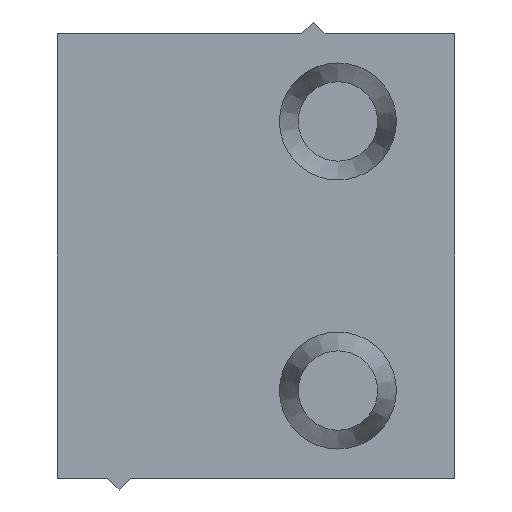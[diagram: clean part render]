
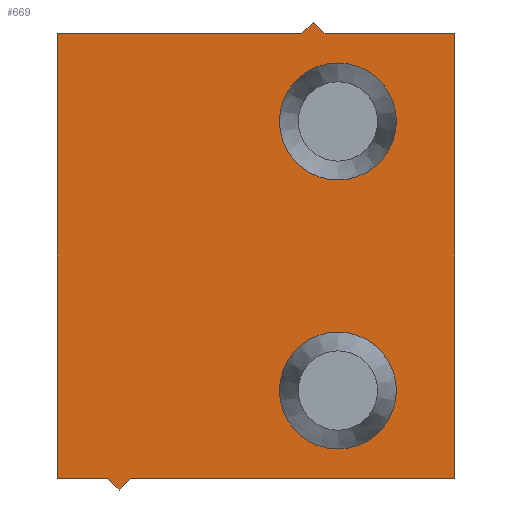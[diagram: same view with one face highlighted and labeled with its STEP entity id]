
A CAD part, left-side view. The second image highlights one B-rep face of the part: STEP entity #669.
In plain terms, the highlighted planar face has unit normal (-1, 0, 0).
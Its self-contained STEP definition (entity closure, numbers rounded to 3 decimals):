
#38=CIRCLE('',#733,2.5);
#39=CIRCLE('',#734,2.5);
#100=ORIENTED_EDGE('',*,*,#261,.T.);
#101=ORIENTED_EDGE('',*,*,#262,.F.);
#102=ORIENTED_EDGE('',*,*,#229,.T.);
#103=ORIENTED_EDGE('',*,*,#263,.F.);
#104=ORIENTED_EDGE('',*,*,#264,.F.);
#105=ORIENTED_EDGE('',*,*,#265,.T.);
#106=ORIENTED_EDGE('',*,*,#266,.F.);
#107=ORIENTED_EDGE('',*,*,#267,.F.);
#108=ORIENTED_EDGE('',*,*,#268,.F.);
#109=ORIENTED_EDGE('',*,*,#269,.F.);
#110=ORIENTED_EDGE('',*,*,#224,.F.);
#111=ORIENTED_EDGE('',*,*,#260,.T.);
#224=EDGE_CURVE('',#308,#309,#372,.T.);
#229=EDGE_CURVE('',#314,#312,#377,.T.);
#260=EDGE_CURVE('',#308,#314,#402,.T.);
#261=EDGE_CURVE('',#340,#340,#38,.T.);
#262=EDGE_CURVE('',#341,#341,#39,.F.);
#263=EDGE_CURVE('',#342,#312,#403,.T.);
#264=EDGE_CURVE('',#343,#342,#404,.T.);
#265=EDGE_CURVE('',#343,#344,#405,.T.);
#266=EDGE_CURVE('',#345,#344,#406,.T.);
#267=EDGE_CURVE('',#346,#345,#407,.T.);
#268=EDGE_CURVE('',#347,#346,#408,.T.);
#269=EDGE_CURVE('',#309,#347,#409,.T.);
#308=VERTEX_POINT('',#990);
#309=VERTEX_POINT('',#991);
#312=VERTEX_POINT('',#999);
#314=VERTEX_POINT('',#1002);
#340=VERTEX_POINT('',#1064);
#341=VERTEX_POINT('',#1066);
#342=VERTEX_POINT('',#1068);
#343=VERTEX_POINT('',#1070);
#344=VERTEX_POINT('',#1072);
#345=VERTEX_POINT('',#1074);
#346=VERTEX_POINT('',#1076);
#347=VERTEX_POINT('',#1078);
#372=LINE('',#989,#432);
#377=LINE('',#1001,#437);
#402=LINE('',#1061,#462);
#403=LINE('',#1067,#463);
#404=LINE('',#1069,#464);
#405=LINE('',#1071,#465);
#406=LINE('',#1073,#466);
#407=LINE('',#1075,#467);
#408=LINE('',#1077,#468);
#409=LINE('',#1079,#469);
#432=VECTOR('',#793,1000.);
#437=VECTOR('',#800,1000.);
#462=VECTOR('',#843,1000.);
#463=VECTOR('',#850,1000.);
#464=VECTOR('',#851,1000.);
#465=VECTOR('',#852,1000.);
#466=VECTOR('',#853,1000.);
#467=VECTOR('',#854,1000.);
#468=VECTOR('',#855,1000.);
#469=VECTOR('',#856,1000.);
#503=EDGE_LOOP('',(#100));
#504=EDGE_LOOP('',(#101));
#505=EDGE_LOOP('',(#102,#103,#104,#105,#106,#107,#108,#109,#110,#111));
#573=FACE_BOUND('',#503,.T.);
#574=FACE_BOUND('',#504,.T.);
#575=FACE_BOUND('',#505,.T.);
#637=PLANE('',#732);
#669=ADVANCED_FACE('',(#573,#574,#575),#637,.F.);
#732=AXIS2_PLACEMENT_3D('',#1062,#844,#845);
#733=AXIS2_PLACEMENT_3D('',#1063,#846,#847);
#734=AXIS2_PLACEMENT_3D('',#1065,#848,#849);
#793=DIRECTION('',(0.,-1.,0.));
#800=DIRECTION('',(0.,-1.,0.));
#843=DIRECTION('',(0.,0.,-1.));
#844=DIRECTION('',(1.,0.,0.));
#845=DIRECTION('',(0.,0.,-1.));
#846=DIRECTION('',(1.,0.,0.));
#847=DIRECTION('',(0.,0.,-1.));
#848=DIRECTION('',(1.,0.,0.));
#849=DIRECTION('',(0.,0.,-1.));
#850=DIRECTION('',(0.,0.707,0.707));
#851=DIRECTION('',(0.,0.707,-0.707));
#852=DIRECTION('',(0.,-1.,0.));
#853=DIRECTION('',(0.,0.,-1.));
#854=DIRECTION('',(0.,-1.,0.));
#855=DIRECTION('',(0.,-0.707,-0.707));
#856=DIRECTION('',(0.,-0.707,0.707));
#989=CARTESIAN_POINT('',(0.,17.,9.5));
#990=CARTESIAN_POINT('',(0.,17.,9.5));
#991=CARTESIAN_POINT('',(0.,6.55,9.5));
#999=CARTESIAN_POINT('',(0.,14.85,-9.5));
#1001=CARTESIAN_POINT('',(0.,17.,-9.5));
#1002=CARTESIAN_POINT('',(0.,17.,-9.5));
#1061=CARTESIAN_POINT('',(0.,17.,9.5));
#1062=CARTESIAN_POINT('',(0.,17.,9.5));
#1063=CARTESIAN_POINT('',(0.,5.,5.75));
#1064=CARTESIAN_POINT('',(0.,5.,3.25));
#1065=CARTESIAN_POINT('',(0.,5.,-5.75));
#1066=CARTESIAN_POINT('',(0.,5.,-8.25));
#1067=CARTESIAN_POINT('',(0.,14.35,-10.));
#1068=CARTESIAN_POINT('',(0.,14.35,-10.));
#1069=CARTESIAN_POINT('',(0.,13.85,-9.5));
#1070=CARTESIAN_POINT('',(0.,13.85,-9.5));
#1071=CARTESIAN_POINT('',(0.,17.,-9.5));
#1072=CARTESIAN_POINT('',(0.,0.,-9.5));
#1073=CARTESIAN_POINT('',(0.,0.,9.5));
#1074=CARTESIAN_POINT('',(0.,0.,9.5));
#1075=CARTESIAN_POINT('',(0.,17.,9.5));
#1076=CARTESIAN_POINT('',(0.,5.55,9.5));
#1077=CARTESIAN_POINT('',(0.,6.05,10.));
#1078=CARTESIAN_POINT('',(0.,6.05,10.));
#1079=CARTESIAN_POINT('',(0.,6.55,9.5));
